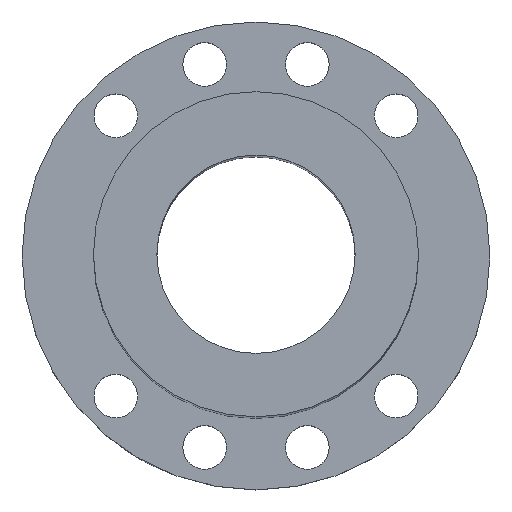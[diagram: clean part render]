
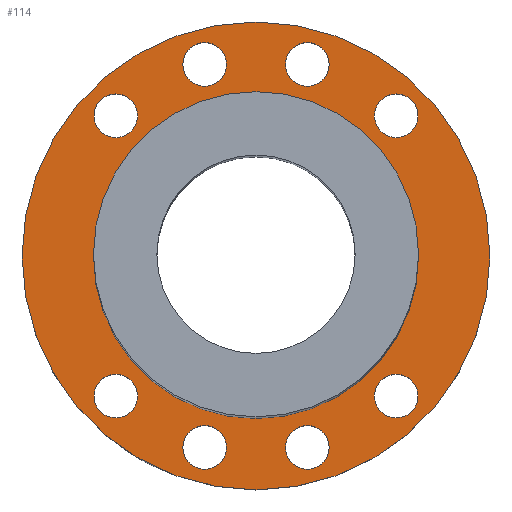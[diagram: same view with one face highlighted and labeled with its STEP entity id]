
A CAD part, top view. The second image highlights one B-rep face of the part: STEP entity #114.
In plain terms, the highlighted planar face has unit normal (0, 0, 1).
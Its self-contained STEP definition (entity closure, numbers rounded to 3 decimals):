
#99=PLANE('',#401);
#114=ADVANCED_FACE('',(#169,#170,#171,#172,#173,#174,#175,#176,#177,#178),
#99,.T.);
#169=FACE_BOUND('',#221,.T.);
#170=FACE_BOUND('',#222,.T.);
#171=FACE_BOUND('',#223,.T.);
#172=FACE_BOUND('',#224,.T.);
#173=FACE_BOUND('',#225,.T.);
#174=FACE_BOUND('',#226,.T.);
#175=FACE_BOUND('',#227,.T.);
#176=FACE_BOUND('',#228,.T.);
#177=FACE_BOUND('',#229,.T.);
#178=FACE_BOUND('',#230,.T.);
#221=EDGE_LOOP('',(#273));
#222=EDGE_LOOP('',(#274));
#223=EDGE_LOOP('',(#275));
#224=EDGE_LOOP('',(#276));
#225=EDGE_LOOP('',(#277));
#226=EDGE_LOOP('',(#278));
#227=EDGE_LOOP('',(#279));
#228=EDGE_LOOP('',(#280));
#229=EDGE_LOOP('',(#281));
#230=EDGE_LOOP('',(#282));
#273=ORIENTED_EDGE('',*,*,#316,.T.);
#274=ORIENTED_EDGE('',*,*,#337,.T.);
#275=ORIENTED_EDGE('',*,*,#336,.F.);
#276=ORIENTED_EDGE('',*,*,#335,.F.);
#277=ORIENTED_EDGE('',*,*,#334,.T.);
#278=ORIENTED_EDGE('',*,*,#333,.F.);
#279=ORIENTED_EDGE('',*,*,#332,.F.);
#280=ORIENTED_EDGE('',*,*,#318,.T.);
#281=ORIENTED_EDGE('',*,*,#331,.T.);
#282=ORIENTED_EDGE('',*,*,#338,.T.);
#290=VERTEX_POINT('',#495);
#292=VERTEX_POINT('',#557);
#305=VERTEX_POINT('',#644);
#306=VERTEX_POINT('',#647);
#307=VERTEX_POINT('',#650);
#308=VERTEX_POINT('',#653);
#309=VERTEX_POINT('',#656);
#310=VERTEX_POINT('',#659);
#311=VERTEX_POINT('',#662);
#312=VERTEX_POINT('',#665);
#316=EDGE_CURVE('',#290,#290,#342,.T.);
#318=EDGE_CURVE('',#292,#292,#343,.T.);
#331=EDGE_CURVE('',#305,#305,#355,.T.);
#332=EDGE_CURVE('',#306,#306,#356,.T.);
#333=EDGE_CURVE('',#307,#307,#357,.T.);
#334=EDGE_CURVE('',#308,#308,#358,.T.);
#335=EDGE_CURVE('',#309,#309,#359,.T.);
#336=EDGE_CURVE('',#310,#310,#360,.T.);
#337=EDGE_CURVE('',#311,#311,#361,.T.);
#338=EDGE_CURVE('',#312,#312,#362,.T.);
#342=CIRCLE('',#367,59.);
#343=CIRCLE('',#369,41.);
#355=CIRCLE('',#385,5.5);
#356=CIRCLE('',#387,5.5);
#357=CIRCLE('',#389,5.5);
#358=CIRCLE('',#391,5.5);
#359=CIRCLE('',#393,5.5);
#360=CIRCLE('',#395,5.5);
#361=CIRCLE('',#397,5.5);
#362=CIRCLE('',#399,5.5);
#367=AXIS2_PLACEMENT_3D('',#494,#411,#412);
#369=AXIS2_PLACEMENT_3D('',#556,#415,#416);
#385=AXIS2_PLACEMENT_3D('',#643,#447,#448);
#387=AXIS2_PLACEMENT_3D('',#646,#451,#452);
#389=AXIS2_PLACEMENT_3D('',#649,#455,#456);
#391=AXIS2_PLACEMENT_3D('',#652,#459,#460);
#393=AXIS2_PLACEMENT_3D('',#655,#463,#464);
#395=AXIS2_PLACEMENT_3D('',#658,#467,#468);
#397=AXIS2_PLACEMENT_3D('',#661,#471,#472);
#399=AXIS2_PLACEMENT_3D('',#664,#475,#476);
#401=AXIS2_PLACEMENT_3D('',#667,#479,#480);
#411=DIRECTION('',(0.,0.,1.));
#412=DIRECTION('',(1.,0.,0.));
#415=DIRECTION('',(0.,0.,-1.));
#416=DIRECTION('',(1.,0.,0.));
#447=DIRECTION('',(0.,0.,-1.));
#448=DIRECTION('',(-1.,0.,0.));
#451=DIRECTION('',(0.,0.,1.));
#452=DIRECTION('',(1.,0.,0.));
#455=DIRECTION('',(0.,0.,1.));
#456=DIRECTION('',(1.,0.,0.));
#459=DIRECTION('',(0.,0.,-1.));
#460=DIRECTION('',(1.,0.,0.));
#463=DIRECTION('',(0.,0.,1.));
#464=DIRECTION('',(-1.,0.,0.));
#467=DIRECTION('',(0.,0.,1.));
#468=DIRECTION('',(-1.,0.,0.));
#471=DIRECTION('',(0.,0.,-1.));
#472=DIRECTION('',(1.,0.,0.));
#475=DIRECTION('',(0.,0.,-1.));
#476=DIRECTION('',(-1.,0.,0.));
#479=DIRECTION('',(0.,0.,1.));
#480=DIRECTION('',(1.,0.,0.));
#494=CARTESIAN_POINT('',(0.,0.,16.));
#495=CARTESIAN_POINT('',(59.,0.,16.));
#556=CARTESIAN_POINT('',(0.,0.,16.));
#557=CARTESIAN_POINT('',(41.,0.,16.));
#643=CARTESIAN_POINT('',(12.941,48.296,16.));
#644=CARTESIAN_POINT('',(7.441,48.296,16.));
#646=CARTESIAN_POINT('',(-35.355,35.355,16.));
#647=CARTESIAN_POINT('',(-29.855,35.355,16.));
#649=CARTESIAN_POINT('',(-12.941,48.296,16.));
#650=CARTESIAN_POINT('',(-7.441,48.296,16.));
#652=CARTESIAN_POINT('',(-35.355,-35.355,16.));
#653=CARTESIAN_POINT('',(-29.855,-35.355,16.));
#655=CARTESIAN_POINT('',(35.355,-35.355,16.));
#656=CARTESIAN_POINT('',(29.855,-35.355,16.));
#658=CARTESIAN_POINT('',(12.941,-48.296,16.));
#659=CARTESIAN_POINT('',(7.441,-48.296,16.));
#661=CARTESIAN_POINT('',(-12.941,-48.296,16.));
#662=CARTESIAN_POINT('',(-7.441,-48.296,16.));
#664=CARTESIAN_POINT('',(35.355,35.355,16.));
#665=CARTESIAN_POINT('',(29.855,35.355,16.));
#667=CARTESIAN_POINT('',(-6.47,-24.148,16.));
